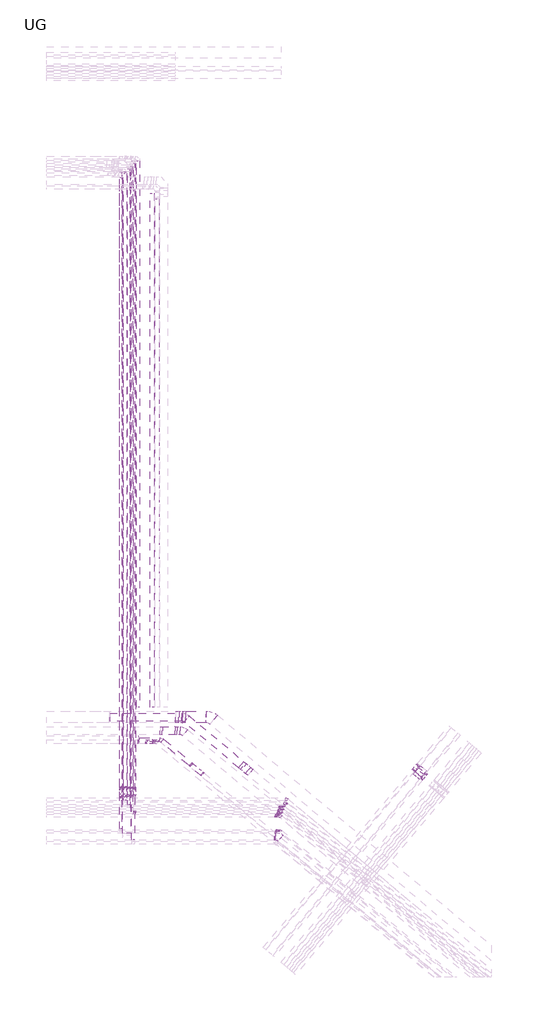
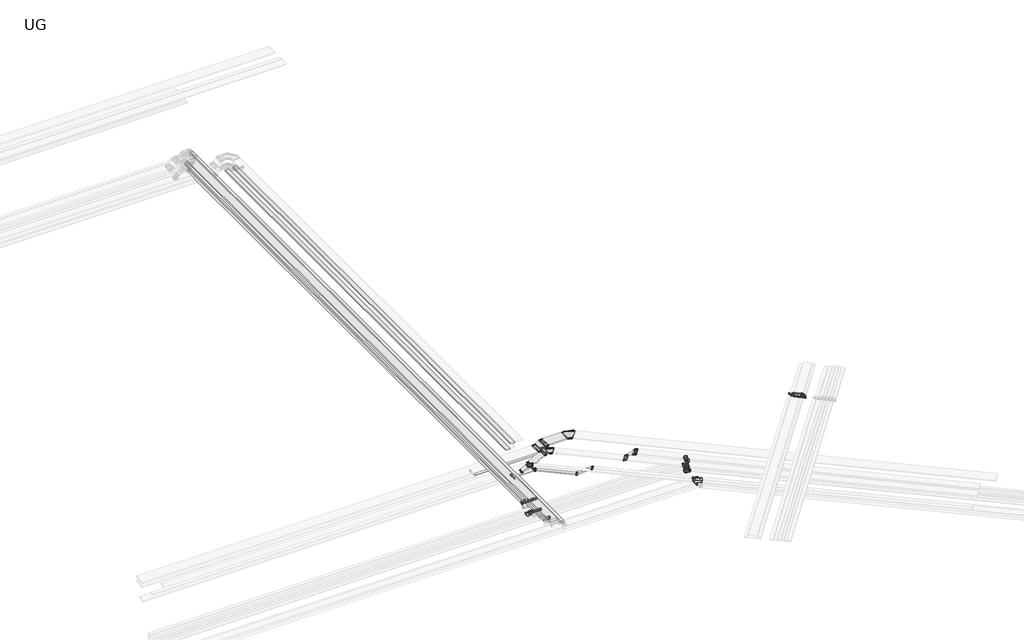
# One storey, part 3 of 14: 54 cable carrier fittings, 47 cable carrier segments.
"""IFC4 building model written with IfcOpenShell, lengths in millimetres."""

from ifc_helpers import new_model, si_unit, frame, origin, place, context, project, spatial, polyline, outline, extrude, transform, mapped, element, save
from components import cable_tray_horizontal_bend_a37de1d9, cable_tray_horizontal_bend_3e94afd1, cable_tray_horizontal_bend_6ea1dc5c, cable_tray_horizontal_bend_203efda3, cable_tray_horizontal_bend_376117d4, cable_tray_horizontal_bend_fe87960c, cable_tray_horizontal_bend_765600c6, cable_tray_horizontal_bend_eb570cdd, cable_tray_horizontal_bend_2ef30f2e, cable_tray_horizontal_bend_5fd04952, cable_tray_reducer_6475a707, cable_tray_reducer_8ec5fc44, cable_tray_reducer_cdb0313a, cable_tray_vertical_inside_bend_327bc21f, cable_tray_vertical_inside_bend_f6baaffd, cable_tray_vertical_inside_bend_f7f475b4, cable_tray_vertical_inside_bend_de01723b, cable_tray_vertical_inside_bend_649f0518, cable_tray_vertical_inside_bend_7e2063ad, cable_tray_vertical_inside_bend_b1ce3206, cable_tray_vertical_inside_bend_7db7fc7c, cable_tray_vertical_inside_bend_b44fa44e, cable_tray_vertical_inside_bend_c3333b5b, cable_tray_vertical_inside_bend_e76ff088, cable_tray_vertical_inside_bend_801f750d, cable_tray_vertical_outside_bend_a3d3d836, cable_tray_vertical_outside_bend_dc64f624, cable_tray_vertical_outside_bend_fceaed45, cable_tray_vertical_outside_bend_b6a104fe, cable_tray_vertical_outside_bend_59e16c32, cable_tray_vertical_outside_bend_ce2e8d87, cable_tray_vertical_outside_bend_bbdee010, cable_tray_vertical_outside_bend_665fa45d, cable_tray_vertical_outside_bend_58dbef8e, cable_tray_vertical_outside_bend_64dea95c, cable_tray_vertical_outside_bend_fd5c28ad

model = new_model("IFC4")

# Units and contexts
model_context = context("Model", 3, world=origin())
ifc_project = project(units=[si_unit("LENGTHUNIT", "METRE", prefix="MILLI")], contexts=[model_context])

# Site, building, storey
site = spatial("IfcSite", under=ifc_project)
building = spatial("IfcBuilding", under=site)
storey = spatial("IfcBuildingStorey", under=building, Name="UG", Elevation=7925.0)

# Cable carrier fittings
placement = place(None, origin())
cable_tray_horizontal_bend_shape = cable_tray_horizontal_bend_a37de1d9(model_context)
element("IfcCableCarrierFitting", 1, ObjectType="Cable Tray Horizontal Bend : ELEC_ELV_TKG_N2402", at=placement, inside=storey, context=model_context, shape_type="MappedRepresentation", body=[
    mapped(cable_tray_horizontal_bend_shape, transform((127964.6174213, 35446.8422805, 12875.0), x_axis=(-0.6427876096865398, -0.7660444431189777, 0.0), y_axis=(0.0, 0.0, 1.0), z_axis=(-0.7660444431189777, 0.6427876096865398, 0.0))),
])
cable_tray_horizontal_bend_2_shape = cable_tray_horizontal_bend_3e94afd1(model_context)
element("IfcCableCarrierFitting", 2, ObjectType="Cable Tray Horizontal Bend : ELEC_ELV_TKG_N2402", at=placement, inside=storey, context=model_context, shape_type="MappedRepresentation", body=[
    mapped(cable_tray_horizontal_bend_2_shape, transform((127741.460372, 35647.6112133, 12900.0), x_axis=(-0.6427876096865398, -0.7660444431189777, 0.0), y_axis=(0.0, 0.0, 1.0), z_axis=(-0.7660444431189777, 0.6427876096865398, 0.0))),
])
cable_tray_horizontal_bend_3_shape = cable_tray_horizontal_bend_6ea1dc5c(model_context)
element("IfcCableCarrierFitting", 3, ObjectType="Cable Tray Horizontal Bend : ELEC_ELV_TKG_N2402", at=placement, inside=storey, context=model_context, shape_type="MappedRepresentation", body=[
    mapped(cable_tray_horizontal_bend_3_shape, transform((120484.1235877, 32544.1008473, 12624.9999525), x_axis=(-0.7660444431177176, 0.6427876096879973, 2.385974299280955e-07), y_axis=(-0.6427876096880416, -0.7660444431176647, -2.8434934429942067e-07), z_axis=(0.0, -3.711917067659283e-07, 0.999999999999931))),
])
element("IfcCableCarrierFitting", 4, ObjectType="Cable Tray Horizontal Bend : ELEC_ELV_TKG_N2402", at=placement, inside=storey, context=model_context, shape_type="MappedRepresentation", body=[
    mapped(cable_tray_horizontal_bend_3_shape, transform((120549.0658056, 33469.1008552, 12625.0), x_axis=(-0.7660444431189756, 0.6427876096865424, 0.0), y_axis=(-0.6427876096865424, -0.7660444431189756, 0.0), z_axis=(0.0, 0.0, 1.0))),
])
element("IfcCableCarrierFitting", 5, ObjectType="Cable Tray Horizontal Bend : ELEC_ELV_TKG_N2402", at=placement, inside=storey, context=model_context, shape_type="MappedRepresentation", body=[
    mapped(cable_tray_horizontal_bend_3_shape, transform((120658.2568758, 33769.1008552, 12625.0000001), x_axis=(-0.7660444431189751, 0.6427876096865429, 0.0), y_axis=(-0.6427876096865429, -0.7660444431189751, 0.0), z_axis=(0.0, 0.0, 1.0))),
])
element("IfcCableCarrierFitting", 6, ObjectType="Cable Tray Horizontal Bend : ELEC_ELV_TKG_N2402", at=placement, inside=storey, context=model_context, shape_type="MappedRepresentation", body=[
    mapped(cable_tray_horizontal_bend_3_shape, transform((120603.6613407, 33619.1008552, 12625.0000001), x_axis=(-0.7660444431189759, 0.642787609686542, 0.0), y_axis=(-0.642787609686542, -0.7660444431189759, 0.0), z_axis=(0.0, 0.0, 1.0))),
])
cable_tray_horizontal_bend_4_shape = cable_tray_horizontal_bend_203efda3(model_context)
element("IfcCableCarrierFitting", 7, ObjectType="Cable Tray Horizontal Bend : ELEC_ELV_TKG_N2402", at=placement, inside=storey, context=model_context, shape_type="MappedRepresentation", body=[
    mapped(cable_tray_horizontal_bend_4_shape, transform((120794.7457137, 34144.1008552, 12699.9999995), x_axis=(-0.7660444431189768, 0.6427876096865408, 0.0), y_axis=(-0.6427876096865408, -0.7660444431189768, 0.0), z_axis=(0.0, 0.0, 1.0))),
])
element("IfcCableCarrierFitting", 8, ObjectType="Cable Tray Horizontal Bend : ELEC_ELV_TKG_N2402", at=placement, inside=storey, context=model_context, shape_type="MappedRepresentation", body=[
    mapped(cable_tray_horizontal_bend_4_shape, transform((120721.9516668, 33944.1008552, 12699.9999995), x_axis=(-0.7660444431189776, 0.64278760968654, 0.0), y_axis=(-0.64278760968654, -0.7660444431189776, 0.0), z_axis=(0.0, 0.0, 1.0))),
])
cable_tray_horizontal_bend_5_shape = cable_tray_horizontal_bend_376117d4(model_context)
element("IfcCableCarrierFitting", 9, ObjectType="Cable Tray Horizontal Bend : ELEC_ELV_TKG_N2402", at=placement, inside=storey, context=model_context, shape_type="MappedRepresentation", body=[
    mapped(cable_tray_horizontal_bend_5_shape, transform((120375.4539383, 32244.1008519, 12649.9999959), x_axis=(-0.7660444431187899, 0.6427876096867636, 0.0), y_axis=(-0.6427876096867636, -0.7660444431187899, 0.0), z_axis=(0.0, 0.0, 1.0))),
])
cable_tray_horizontal_bend_6_shape = cable_tray_horizontal_bend_fe87960c(model_context)
element("IfcCableCarrierFitting", 10, ObjectType="Cable Tray Horizontal Bend : ELEC_ELV_CT_N2402", at=placement, inside=storey, context=model_context, shape_type="MappedRepresentation", body=[
    mapped(cable_tray_horizontal_bend_6_shape, transform((127535.4609182, 35907.7208678, 12850.0), x_axis=(-0.6427876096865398, -0.7660444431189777, 0.0), y_axis=(0.0, 0.0, 1.0), z_axis=(-0.7660444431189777, 0.6427876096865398, 0.0))),
])
cable_tray_horizontal_bend_7_shape = cable_tray_horizontal_bend_765600c6(model_context)
element("IfcCableCarrierFitting", 11, ObjectType="Cable Tray Horizontal Bend : ELEC_SUB_CT_N2402", at=placement, inside=storey, context=model_context, shape_type="MappedRepresentation", body=[
    mapped(cable_tray_horizontal_bend_7_shape, transform((116910.250083, 38350.0000005, 12850.0), x_axis=(-0.7660444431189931, 0.6427876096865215, 0.0), y_axis=(-0.6427876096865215, -0.7660444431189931, 0.0), z_axis=(0.0, 0.0, 1.0))),
])
cable_tray_horizontal_bend_8_shape = cable_tray_horizontal_bend_eb570cdd(model_context)
element("IfcCableCarrierFitting", 12, ObjectType="Cable Tray Horizontal Bend : ELEC_ELV_CT_N2402", at=placement, inside=storey, context=model_context, shape_type="MappedRepresentation", body=[
    mapped(cable_tray_horizontal_bend_8_shape, transform((120485.3710146, 33294.1008552, 12600.0), x_axis=(-0.7660444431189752, 0.6427876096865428, 0.0), y_axis=(-0.6427876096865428, -0.7660444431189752, 0.0), z_axis=(0.0, 0.0, 1.0))),
])
cable_tray_horizontal_bend_9_shape = cable_tray_horizontal_bend_2ef30f2e(model_context)
element("IfcCableCarrierFitting", 13, ObjectType="Cable Tray Horizontal Bend : ELEC_SUB_CT_N2402", at=placement, inside=storey, context=model_context, shape_type="MappedRepresentation", body=[
    mapped(cable_tray_horizontal_bend_9_shape, transform((115587.8848308, 38350.0000005, 12424.9999994), x_axis=(-0.7660444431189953, 0.6427876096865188, 0.0), y_axis=(-0.6427876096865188, -0.7660444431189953, 0.0), z_axis=(0.0, 0.0, 1.0))),
])
element("IfcCableCarrierFitting", 14, ObjectType="Cable Tray Horizontal Bend : ELEC_SUB_CT_N2402", at=placement, inside=storey, context=model_context, shape_type="MappedRepresentation", body=[
    mapped(cable_tray_horizontal_bend_9_shape, transform((115489.1287652, 37649.6217937, 12850.0), x_axis=(-0.7660444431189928, 0.6427876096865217, 0.0), y_axis=(-0.6427876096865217, -0.7660444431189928, 0.0), z_axis=(0.0, 0.0, 1.0))),
])
cable_tray_horizontal_bend_10_shape = cable_tray_horizontal_bend_5fd04952(model_context)
element("IfcCableCarrierFitting", 15, ObjectType="Cable Tray Horizontal Bend : ELEC_SUB_CT_N2402", at=placement, inside=storey, context=model_context, shape_type="MappedRepresentation", body=[
    mapped(cable_tray_horizontal_bend_10_shape, transform((114157.3663291, 37099.6217937, 12849.9999984), x_axis=(-0.7660444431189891, 0.6427876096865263, 0.0), y_axis=(-0.6427876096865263, -0.7660444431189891, 0.0), z_axis=(0.0, 0.0, 1.0))),
])
element("IfcCableCarrierFitting", 16, ObjectType="Cable Tray Horizontal Bend : ELEC_SUB_CT_N2402", at=placement, inside=storey, context=model_context, shape_type="MappedRepresentation", body=[
    mapped(cable_tray_horizontal_bend_10_shape, transform((114388.1571556, 37199.6217937, 12425.0000001), x_axis=(-0.7660444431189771, 0.6427876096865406, 0.0), y_axis=(-0.6427876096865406, -0.7660444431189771, 0.0), z_axis=(0.0, 0.0, 1.0))),
])
cable_tray_reducer_shape = cable_tray_reducer_6475a707(model_context)
element("IfcCableCarrierFitting", 17, ObjectType="Cable Tray Reducer : ELEC_SUB_CT_N2402", at=placement, inside=storey, context=model_context, shape_type="MappedRepresentation", body=[
    mapped(cable_tray_reducer_shape, transform((113251.9985588, 37199.6217937, 12425.0000001), x_axis=(-1.0, 0.0, 0.0), y_axis=(0.0, -1.0, 0.0), z_axis=(0.0, 0.0, 1.0))),
])
cable_tray_reducer_2_shape = cable_tray_reducer_8ec5fc44(model_context)
element("IfcCableCarrierFitting", 18, ObjectType="Cable Tray Reducer : ELEC_ELV_TKG_N2402", at=placement, inside=storey, context=model_context, shape_type="MappedRepresentation", body=[
    mapped(cable_tray_reducer_2_shape, transform((120229.8658446, 32244.1008519, 12649.9999959), x_axis=(-1.0, 0.0, 0.0), y_axis=(0.0, -1.0, 0.0), z_axis=(0.0, 0.0, 1.0))),
])
cable_tray_reducer_3_shape = cable_tray_reducer_cdb0313a(model_context)
element("IfcCableCarrierFitting", 19, ObjectType="Cable Tray Reducer : ELEC_ELV_TKG_N2402", at=placement, inside=storey, context=model_context, shape_type="MappedRepresentation", body=[
    mapped(cable_tray_reducer_3_shape, transform((120763.7742732, 33909.0075216, 12699.9999995), x_axis=(0.7660444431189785, -0.642787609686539, 0.0), y_axis=(0.642787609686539, 0.7660444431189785, 0.0), z_axis=(0.0, 0.0, 1.0))),
])
cable_tray_vertical_inside_bend_shape = cable_tray_vertical_inside_bend_327bc21f(model_context)
element("IfcCableCarrierFitting", 20, ObjectType="Cable Tray Vertical Inside Bend : ELEC_SUB_CT_N2402", at=placement, inside=storey, context=model_context, shape_type="MappedRepresentation", body=[
    mapped(cable_tray_vertical_inside_bend_shape, transform((114397.4420088, 37649.6217937, 12425.0000001), x_axis=(-0.86602540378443, 0.0, -0.5000000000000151), y_axis=(-0.5000000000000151, 0.0, 0.86602540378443), z_axis=(0.0, 1.0, 0.0))),
])
cable_tray_vertical_inside_bend_2_shape = cable_tray_vertical_inside_bend_f6baaffd(model_context)
element("IfcCableCarrierFitting", 21, ObjectType="Cable Tray Vertical Inside Bend : ELEC_SUB_CT_N2402", at=placement, inside=storey, context=model_context, shape_type="MappedRepresentation", body=[
    mapped(cable_tray_vertical_inside_bend_2_shape, transform((118552.9273312, 35862.033932, 12424.9999994), x_axis=(-0.5416752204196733, 0.4545194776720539, -0.7071067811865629), y_axis=(-0.5416752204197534, 0.45451947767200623, 0.7071067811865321), z_axis=(0.64278760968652, 0.7660444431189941, 0.0))),
])
cable_tray_vertical_inside_bend_3_shape = cable_tray_vertical_inside_bend_f7f475b4(model_context)
element("IfcCableCarrierFitting", 22, ObjectType="Cable Tray Vertical Inside Bend : ELEC_SUB_CT_N2402", at=placement, inside=storey, context=model_context, shape_type="MappedRepresentation", body=[
    mapped(cable_tray_vertical_inside_bend_3_shape, transform((115206.1333505, 38350.0000005, 12649.9999997), x_axis=(1.0, 0.0, 0.0), y_axis=(0.0, 0.0, 1.0), z_axis=(0.0, -1.0, 0.0))),
])
cable_tray_vertical_inside_bend_4_shape = cable_tray_vertical_inside_bend_de01723b(model_context)
element("IfcCableCarrierFitting", 23, ObjectType="Cable Tray Vertical Inside Bend : ELEC_SUB_CT_N2402", at=placement, inside=storey, context=model_context, shape_type="MappedRepresentation", body=[
    mapped(cable_tray_vertical_inside_bend_4_shape, transform((113619.2439008, 37099.6217937, 12650.0), x_axis=(-0.8660254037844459, 0.0, -0.4999999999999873), y_axis=(-0.4999999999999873, 0.0, 0.8660254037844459), z_axis=(0.0, 1.0, 0.0))),
])
element("IfcCableCarrierFitting", 24, ObjectType="Cable Tray Vertical Inside Bend : ELEC_SUB_CT_N2402", at=placement, inside=storey, context=model_context, shape_type="MappedRepresentation", body=[
    mapped(cable_tray_vertical_inside_bend_4_shape, transform((115921.4151553, 35913.0655717, 12425.0000001), x_axis=(-0.6634139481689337, 0.5566703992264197, -0.500000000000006), y_axis=(-0.38302222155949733, 0.3213938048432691, 0.8660254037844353), z_axis=(0.6427876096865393, 0.7660444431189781, 0.0))),
])
cable_tray_vertical_inside_bend_5_shape = cable_tray_vertical_inside_bend_649f0518(model_context)
element("IfcCableCarrierFitting", 25, ObjectType="Cable Tray Vertical Inside Bend : ELEC_ELV_TKG_N2402", at=placement, inside=storey, context=model_context, shape_type="MappedRepresentation", body=[
    mapped(cable_tray_vertical_inside_bend_5_shape, transform((113022.323276, 33469.1008552, 12374.9999995), x_axis=(0.0, -1.0, 0.0), y_axis=(0.0, 0.0, 1.0), z_axis=(-1.0, 0.0, 0.0))),
])
cable_tray_vertical_inside_bend_6_shape = cable_tray_vertical_inside_bend_7e2063ad(model_context)
element("IfcCableCarrierFitting", 26, ObjectType="Cable Tray Vertical Inside Bend : ELEC_ELV_TKG_N2402", at=placement, inside=storey, context=model_context, shape_type="MappedRepresentation", body=[
    mapped(cable_tray_vertical_inside_bend_6_shape, transform((112547.323276, 34344.1008552, 12400.0), x_axis=(0.0, -0.7071067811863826, -0.7071067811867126), y_axis=(0.0, -0.7071067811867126, 0.7071067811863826), z_axis=(-1.0, 0.0, 0.0))),
])
cable_tray_vertical_inside_bend_7_shape = cable_tray_vertical_inside_bend_b1ce3206(model_context)
element("IfcCableCarrierFitting", 27, ObjectType="Cable Tray Vertical Inside Bend : ELEC_ELV_TKG_N2402", at=placement, inside=storey, context=model_context, shape_type="MappedRepresentation", body=[
    mapped(cable_tray_vertical_inside_bend_7_shape, transform((113022.323276, 34344.1008547, 12374.9999995), x_axis=(0.0, -0.707106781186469, -0.7071067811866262), y_axis=(0.0, -0.7071067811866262, 0.707106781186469), z_axis=(-1.0, 0.0, 0.0))),
])
element("IfcCableCarrierFitting", 28, ObjectType="Cable Tray Vertical Inside Bend : ELEC_ELV_TKG_N2402", at=placement, inside=storey, context=model_context, shape_type="MappedRepresentation", body=[
    mapped(cable_tray_vertical_inside_bend_7_shape, transform((112872.323276, 34344.1008547, 12374.9999995), x_axis=(0.0, -0.7071067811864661, -0.707106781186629), y_axis=(0.0, -0.707106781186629, 0.7071067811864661), z_axis=(-1.0, 0.0, 0.0))),
])
element("IfcCableCarrierFitting", 29, ObjectType="Cable Tray Vertical Inside Bend : ELEC_ELV_TKG_N2402", at=placement, inside=storey, context=model_context, shape_type="MappedRepresentation", body=[
    mapped(cable_tray_vertical_inside_bend_7_shape, transform((112722.323276, 34344.1008552, 12375.0), x_axis=(0.0, -0.7071067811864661, -0.707106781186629), y_axis=(0.0, -0.707106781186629, 0.7071067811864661), z_axis=(-1.0, 0.0, 0.0))),
])
cable_tray_vertical_inside_bend_8_shape = cable_tray_vertical_inside_bend_7db7fc7c(model_context)
element("IfcCableCarrierFitting", 30, ObjectType="Cable Tray Vertical Inside Bend : ELEC_ELV_TKG_N2402", at=placement, inside=storey, context=model_context, shape_type="MappedRepresentation", body=[
    mapped(cable_tray_vertical_inside_bend_8_shape, transform((112347.323276, 34144.1008552, 12400.0), x_axis=(0.0, -1.0, 0.0), y_axis=(0.0, 0.0, 1.0), z_axis=(-1.0, 0.0, 0.0))),
])
cable_tray_vertical_inside_bend_9_shape = cable_tray_vertical_inside_bend_b44fa44e(model_context)
element("IfcCableCarrierFitting", 31, ObjectType="Cable Tray Vertical Inside Bend : ELEC_ELV_TKG_N2402", at=placement, inside=storey, context=model_context, shape_type="MappedRepresentation", body=[
    mapped(cable_tray_vertical_inside_bend_9_shape, transform((112347.323276, 34344.1008552, 12400.0), x_axis=(0.0, -0.7071067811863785, -0.7071067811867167), y_axis=(0.0, -0.7071067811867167, 0.7071067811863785), z_axis=(-1.0, 0.0, 0.0))),
])
cable_tray_vertical_inside_bend_10_shape = cable_tray_vertical_inside_bend_c3333b5b(model_context)
element("IfcCableCarrierFitting", 32, ObjectType="Cable Tray Vertical Inside Bend : ELEC_ELV_TKG_N2402", at=placement, inside=storey, context=model_context, shape_type="MappedRepresentation", body=[
    mapped(cable_tray_vertical_inside_bend_10_shape, transform((120360.5854539, 32544.1008473, 12624.9999525), x_axis=(-1.0, 0.0, 0.0), y_axis=(0.0, 0.0, 1.0), z_axis=(0.0, 1.0, 0.0))),
])
cable_tray_vertical_inside_bend_11_shape = cable_tray_vertical_inside_bend_e76ff088(model_context)
element("IfcCableCarrierFitting", 33, ObjectType="Cable Tray Vertical Inside Bend : ELEC_ELV_CT_N2402", at=placement, inside=storey, context=model_context, shape_type="MappedRepresentation", body=[
    mapped(cable_tray_vertical_inside_bend_11_shape, transform((120322.923509, 33294.1008552, 12600.0), x_axis=(-1.0, 0.0, 0.0), y_axis=(0.0, 0.0, 1.0), z_axis=(0.0, 1.0, 0.0))),
])
cable_tray_vertical_inside_bend_12_shape = cable_tray_vertical_inside_bend_801f750d(model_context)
element("IfcCableCarrierFitting", 34, ObjectType="Cable Tray Vertical Inside Bend : ELEC_ELV_TKG_N2402", at=placement, inside=storey, context=model_context, shape_type="MappedRepresentation", body=[
    mapped(cable_tray_vertical_inside_bend_12_shape, transform((120425.5276717, 33469.1008552, 12625.0), x_axis=(-1.0, 0.0, 0.0), y_axis=(0.0, 0.0, 1.0), z_axis=(0.0, 1.0, 0.0))),
])
element("IfcCableCarrierFitting", 35, ObjectType="Cable Tray Vertical Inside Bend : ELEC_ELV_TKG_N2402", at=placement, inside=storey, context=model_context, shape_type="MappedRepresentation", body=[
    mapped(cable_tray_vertical_inside_bend_12_shape, transform((120480.1232069, 33619.1008552, 12625.0000001), x_axis=(-1.0, 0.0, 0.0), y_axis=(0.0, 0.0, 1.0), z_axis=(0.0, 1.0, 0.0))),
])
element("IfcCableCarrierFitting", 36, ObjectType="Cable Tray Vertical Inside Bend : ELEC_ELV_TKG_N2402", at=placement, inside=storey, context=model_context, shape_type="MappedRepresentation", body=[
    mapped(cable_tray_vertical_inside_bend_12_shape, transform((120534.718742, 33769.1008552, 12625.0000001), x_axis=(-1.0, 0.0, 0.0), y_axis=(0.0, 0.0, 1.0), z_axis=(0.0, 1.0, 0.0))),
])
cable_tray_vertical_outside_bend_shape = cable_tray_vertical_outside_bend_a3d3d836(model_context)
element("IfcCableCarrierFitting", 37, ObjectType="Cable Tray Vertical Outside Bend : ELEC_ELV_TKG_N2402", at=placement, inside=storey, context=model_context, shape_type="MappedRepresentation", body=[
    mapped(cable_tray_vertical_outside_bend_shape, transform((127528.3055331, 35393.5831683, 13231.6100617), x_axis=(0.6427876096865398, 0.7660444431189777, 0.0), y_axis=(0.0, 0.0, -1.0), z_axis=(-0.7660444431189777, 0.6427876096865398, 0.0))),
])
cable_tray_vertical_outside_bend_2_shape = cable_tray_vertical_outside_bend_dc64f624(model_context)
element("IfcCableCarrierFitting", 38, ObjectType="Cable Tray Vertical Outside Bend : ELEC_SUB_CT_N2402", at=placement, inside=storey, context=model_context, shape_type="MappedRepresentation", body=[
    mapped(cable_tray_vertical_outside_bend_2_shape, transform((115133.5636019, 37649.6217937, 12850.0), x_axis=(-1.0, 0.0, 0.0), y_axis=(0.0, 0.0, -1.0), z_axis=(0.0, -1.0, 0.0))),
])
cable_tray_vertical_outside_bend_3_shape = cable_tray_vertical_outside_bend_fceaed45(model_context)
element("IfcCableCarrierFitting", 39, ObjectType="Cable Tray Vertical Outside Bend : ELEC_ELV_TKG_N2402", at=placement, inside=storey, context=model_context, shape_type="MappedRepresentation", body=[
    mapped(cable_tray_vertical_outside_bend_3_shape, transform((127751.4450063, 35192.793289, 13206.6374053), x_axis=(-0.45451947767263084, -0.5416752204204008, 0.7071067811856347), y_axis=(-0.4545194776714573, -0.5416752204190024, -0.7071067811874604), z_axis=(0.7660444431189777, -0.6427876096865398, 0.0))),
])
element("IfcCableCarrierFitting", 40, ObjectType="Cable Tray Vertical Outside Bend : ELEC_ELV_TKG_N2402", at=placement, inside=storey, context=model_context, shape_type="MappedRepresentation", body=[
    mapped(cable_tray_vertical_outside_bend_3_shape, transform((113022.323276, 34719.1008552, 12750.0), x_axis=(0.0, -1.0, 0.0), y_axis=(0.0, 0.0, -1.0), z_axis=(1.0, 0.0, 0.0))),
])
element("IfcCableCarrierFitting", 41, ObjectType="Cable Tray Vertical Outside Bend : ELEC_ELV_TKG_N2402", at=placement, inside=storey, context=model_context, shape_type="MappedRepresentation", body=[
    mapped(cable_tray_vertical_outside_bend_3_shape, transform((112872.323276, 34719.1008552, 12750.0), x_axis=(0.0, -1.0, 0.0), y_axis=(0.0, 0.0, -1.0), z_axis=(1.0, 0.0, 0.0))),
])
element("IfcCableCarrierFitting", 42, ObjectType="Cable Tray Vertical Outside Bend : ELEC_ELV_TKG_N2402", at=placement, inside=storey, context=model_context, shape_type="MappedRepresentation", body=[
    mapped(cable_tray_vertical_outside_bend_3_shape, transform((112722.323276, 34719.1008552, 12750.0), x_axis=(0.0, -1.0, 0.0), y_axis=(0.0, 0.0, -1.0), z_axis=(1.0, 0.0, 0.0))),
])
cable_tray_vertical_outside_bend_4_shape = cable_tray_vertical_outside_bend_b6a104fe(model_context)
element("IfcCableCarrierFitting", 43, ObjectType="Cable Tray Vertical Outside Bend : ELEC_ELV_TKG_N2402", at=placement, inside=storey, context=model_context, shape_type="MappedRepresentation", body=[
    mapped(cable_tray_vertical_outside_bend_4_shape, transform((112547.323276, 34719.1008552, 12775.0), x_axis=(0.0, -1.0, 0.0), y_axis=(0.0, 0.0, -1.0), z_axis=(1.0, 0.0, 0.0))),
])
element("IfcCableCarrierFitting", 44, ObjectType="Cable Tray Vertical Outside Bend : ELEC_ELV_TKG_N2402", at=placement, inside=storey, context=model_context, shape_type="MappedRepresentation", body=[
    mapped(cable_tray_vertical_outside_bend_4_shape, transform((112347.323276, 34719.1008552, 12775.0), x_axis=(0.0, -1.0, 0.0), y_axis=(0.0, 0.0, -1.0), z_axis=(1.0, 0.0, 0.0))),
])
cable_tray_vertical_outside_bend_5_shape = cable_tray_vertical_outside_bend_59e16c32(model_context)
element("IfcCableCarrierFitting", 45, ObjectType="Cable Tray Vertical Outside Bend : ELEC_SUB_CT_N2402", at=placement, inside=storey, context=model_context, shape_type="MappedRepresentation", body=[
    mapped(cable_tray_vertical_outside_bend_5_shape, transform((118878.49622, 35588.8491975, 12850.0), x_axis=(0.5416752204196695, -0.4545194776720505, 0.707106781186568), y_axis=(0.5416752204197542, -0.4545194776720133, -0.7071067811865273), z_axis=(0.6427876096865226, 0.7660444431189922, 0.0))),
])
cable_tray_vertical_outside_bend_6_shape = cable_tray_vertical_outside_bend_ce2e8d87(model_context)
element("IfcCableCarrierFitting", 46, ObjectType="Cable Tray Vertical Outside Bend : ELEC_ELV_CT_N2402", at=placement, inside=storey, context=model_context, shape_type="MappedRepresentation", body=[
    mapped(cable_tray_vertical_outside_bend_6_shape, transform((127322.2885034, 35653.6718767, 13181.6374049), x_axis=(-0.4545194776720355, -0.5416752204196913, 0.707106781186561), y_axis=(-0.4545194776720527, -0.541675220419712, -0.7071067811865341), z_axis=(0.7660444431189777, -0.6427876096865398, 0.0))),
])
cable_tray_vertical_outside_bend_7_shape = cable_tray_vertical_outside_bend_bbdee010(model_context)
element("IfcCableCarrierFitting", 47, ObjectType="Cable Tray Vertical Outside Bend : ELEC_SUB_CT_N2402", at=placement, inside=storey, context=model_context, shape_type="MappedRepresentation", body=[
    mapped(cable_tray_vertical_outside_bend_7_shape, transform((115552.5435126, 38350.0000005, 12850.0), x_axis=(0.8660254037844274, 0.0, 0.5000000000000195), y_axis=(0.5000000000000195, 0.0, -0.8660254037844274), z_axis=(0.0, 1.0, 0.0))),
])
cable_tray_vertical_outside_bend_8_shape = cable_tray_vertical_outside_bend_665fa45d(model_context)
element("IfcCableCarrierFitting", 48, ObjectType="Cable Tray Vertical Outside Bend : ELEC_SUB_CT_N2402", at=placement, inside=storey, context=model_context, shape_type="MappedRepresentation", body=[
    mapped(cable_tray_vertical_outside_bend_8_shape, transform((113965.6540596, 37099.6217937, 12849.9999984), x_axis=(0.8660254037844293, 0.0, 0.5000000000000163), y_axis=(0.5000000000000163, 0.0, -0.8660254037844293), z_axis=(0.0, 1.0, 0.0))),
])
element("IfcCableCarrierFitting", 49, ObjectType="Cable Tray Vertical Outside Bend : ELEC_SUB_CT_N2402", at=placement, inside=storey, context=model_context, shape_type="MappedRepresentation", body=[
    mapped(cable_tray_vertical_outside_bend_8_shape, transform((116485.3170057, 35439.895737, 12849.9999959), x_axis=(0.6634139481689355, -0.5566703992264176, 0.5000000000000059), y_axis=(0.3830222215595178, -0.3213938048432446, -0.8660254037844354), z_axis=(0.6427876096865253, 0.76604444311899, 0.0))),
])
cable_tray_vertical_outside_bend_9_shape = cable_tray_vertical_outside_bend_58dbef8e(model_context)
element("IfcCableCarrierFitting", 50, ObjectType="Cable Tray Vertical Outside Bend : ELEC_ELV_TKG_N2402", at=placement, inside=storey, context=model_context, shape_type="MappedRepresentation", body=[
    mapped(cable_tray_vertical_outside_bend_9_shape, transform((120273.9829107, 32544.1008473, 12674.9999908), x_axis=(-0.8660252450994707, 0.0, 0.5000002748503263), y_axis=(-0.5000002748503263, 0.0, -0.8660252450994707), z_axis=(0.0, -1.0, 0.0))),
])
cable_tray_vertical_outside_bend_10_shape = cable_tray_vertical_outside_bend_64dea95c(model_context)
element("IfcCableCarrierFitting", 51, ObjectType="Cable Tray Vertical Outside Bend : ELEC_ELV_CT_N2402", at=placement, inside=storey, context=model_context, shape_type="MappedRepresentation", body=[
    mapped(cable_tray_vertical_outside_bend_10_shape, transform((120236.3209659, 33294.1008552, 12649.9999995), x_axis=(-0.8660254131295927, 0.0, 0.4999999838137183), y_axis=(-0.4999999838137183, 0.0, -0.8660254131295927), z_axis=(0.0, -1.0, 0.0))),
])
cable_tray_vertical_outside_bend_11_shape = cable_tray_vertical_outside_bend_fd5c28ad(model_context)
element("IfcCableCarrierFitting", 52, ObjectType="Cable Tray Vertical Outside Bend : ELEC_ELV_TKG_N2402", at=placement, inside=storey, context=model_context, shape_type="MappedRepresentation", body=[
    mapped(cable_tray_vertical_outside_bend_11_shape, transform((120338.9251286, 33469.1008552, 12674.9999995), x_axis=(-0.8660254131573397, 0.0, 0.49999998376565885), y_axis=(-0.49999998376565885, 0.0, -0.8660254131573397), z_axis=(0.0, -1.0, 0.0))),
])
element("IfcCableCarrierFitting", 53, ObjectType="Cable Tray Vertical Outside Bend : ELEC_ELV_TKG_N2402", at=placement, inside=storey, context=model_context, shape_type="MappedRepresentation", body=[
    mapped(cable_tray_vertical_outside_bend_11_shape, transform((120393.5206637, 33619.1008552, 12674.9999995), x_axis=(-0.8660254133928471, 0.0, 0.49999998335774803), y_axis=(-0.49999998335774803, 0.0, -0.8660254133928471), z_axis=(0.0, -1.0, 0.0))),
])
element("IfcCableCarrierFitting", 54, ObjectType="Cable Tray Vertical Outside Bend : ELEC_ELV_TKG_N2402", at=placement, inside=storey, context=model_context, shape_type="MappedRepresentation", body=[
    mapped(cable_tray_vertical_outside_bend_11_shape, transform((120448.1161989, 33769.1008552, 12674.9999995), x_axis=(-0.8660254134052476, 0.0, 0.4999999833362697), y_axis=(-0.4999999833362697, 0.0, -0.8660254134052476), z_axis=(0.0, -1.0, 0.0))),
])

# Cable carrier segments
element("IfcCableCarrierSegment", 55, ObjectType="ELEC_SUB_CT_N2402", at=placement, inside=storey, context=model_context, shape_type="SweptSolid", body=[
    extrude(outline(polyline([(114072.323279, 64868.0008654), (114272.323279, 64868.0008654), (114272.323279, 38850.0000005), (114072.323279, 38850.0000005), (114072.323279, 64868.0008654)])), frame((0.0, 0.0, 12974.9999997), z_axis=(0.0, 0.0, 1.0), x_axis=(1.0, 0.0, 0.0)), (0.0, 0.0, 1.0), 50.0),
])
element("IfcCableCarrierSegment", 56, ObjectType="ELEC_ELV_TKG_N2402", at=placement, inside=storey, context=model_context, shape_type="SweptSolid", body=[
    extrude(outline(polyline([(0.0, -400.0), (0.0, 0.0), (241.1499874, 0.0), (241.1499874, -400.0), (0.0, -400.0)])), frame((127392.78142, 35543.2165849, 13098.031418), z_axis=(0.45451947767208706, 0.5416752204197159, 0.707106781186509), x_axis=(0.4545194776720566, 0.5416752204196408, -0.7071067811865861)), (0.0, 0.0, 1.0), 150.0),
])
element("IfcCableCarrierSegment", 57, ObjectType="ELEC_ELV_CT_N2402", at=placement, inside=storey, context=model_context, shape_type="SweptSolid", body=[
    extrude(outline(polyline([(0.0, -150.0000001), (0.0, 0.0), (386.1634033, 0.0), (386.1634033, -150.0000001), (0.0, -150.0000001)])), frame((127562.7244513, 35823.5329943, 12861.6116524), z_axis=(0.45451947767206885, 0.5416752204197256, 0.7071067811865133), x_axis=(-0.4545194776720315, -0.5416752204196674, 0.7071067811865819)), (0.0, 0.0, 1.0), 50.0),
])
element("IfcCableCarrierSegment", 58, ObjectType="ELEC_ELV_TKG_N2402", at=placement, inside=storey, context=model_context, shape_type="SweptSolid", body=[
    extrude(outline(polyline([(0.0, -100.0), (0.0, 0.0), (386.1634039, 0.0), (386.1634039, -99.9999999), (0.0, -100.0)])), frame((127961.3668564, 35365.1822167, 12868.9339828), z_axis=(0.4545194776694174, 0.5416752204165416, 0.7071067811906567), x_axis=(-0.45451947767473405, -0.5416752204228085, 0.7071067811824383)), (0.0, 0.0, 1.0), 100.0),
])
element("IfcCableCarrierSegment", 59, ObjectType="ELEC_SUB_CT_N2402", at=placement, inside=storey, context=model_context, shape_type="SweptSolid", body=[
    extrude(outline(polyline([(113822.323279, 65140.1193568), (114022.323279, 65140.1193568), (114022.323279, 38850.0000005), (113822.323279, 38850.0000005), (113822.323279, 65140.1193568)])), frame((0.0, 0.0, 12700.0), z_axis=(0.0, 0.0, 1.0), x_axis=(1.0, 0.0, 0.0)), (0.0, 0.0, 1.0), 50.0),
])
element("IfcCableCarrierSegment", 60, ObjectType="ELEC_ELV_TKG_N2402", at=placement, inside=storey, context=model_context, shape_type="SweptSolid", body=[
    extrude(outline(polyline([(112872.3232791, 66815.1193598), (113022.3232791, 66815.1193598), (113022.3232791, 32069.1008519), (112872.3232791, 32069.1008519), (112872.3232791, 66815.1193598)])), frame((0.0, 0.0, 12975.0), z_axis=(0.0, 0.0, 1.0), x_axis=(1.0, 0.0, 0.0)), (0.0, 0.0, 1.0), 150.0),
])
element("IfcCableCarrierSegment", 61, ObjectType="ELEC_ELV_TKG_N2402", at=placement, inside=storey, context=model_context, shape_type="SweptSolid", body=[
    extrude(outline(polyline([(112422.3232791, 66240.1193644), (112822.3232791, 66240.1193644), (112822.3232791, 32419.1008519), (112422.3232791, 32419.1008519), (112422.3232791, 66240.1193644)])), frame((0.0, 0.0, 12975.0), z_axis=(0.0, 0.0, 1.0), x_axis=(1.0, 0.0, 0.0)), (0.0, 0.0, 1.0), 150.0),
])
element("IfcCableCarrierSegment", 62, ObjectType="ELEC_ELV_TKG_N2402", at=placement, inside=storey, context=model_context, shape_type="SweptSolid", body=[
    extrude(outline(polyline([(112272.3232791, 66240.1193644), (112372.3232791, 66240.1193644), (112372.3232791, 32644.1008473), (112272.3232791, 32644.1008473), (112272.3232791, 66240.1193644)])), frame((0.0, 0.0, 12975.0), z_axis=(0.0, 0.0, 1.0), x_axis=(1.0, 0.0, 0.0)), (0.0, 0.0, 1.0), 100.0),
])
element("IfcCableCarrierSegment", 63, ObjectType="ELEC_ELV_TKG_N2402", at=placement, inside=storey, context=model_context, shape_type="SweptSolid", body=[
    extrude(outline(polyline([(112272.323276, 65965.1193598), (112422.323276, 65965.1193598), (112422.323276, 34781.2328895), (112272.323276, 34781.2328895), (112272.323276, 65965.1193598)])), frame((0.0, 0.0, 12700.0), z_axis=(0.0, 0.0, 1.0), x_axis=(1.0, 0.0, 0.0)), (0.0, 0.0, 1.0), 150.0),
])
element("IfcCableCarrierSegment", 64, ObjectType="ELEC_ELV_TKG_N2402", at=placement, inside=storey, context=model_context, shape_type="SweptSolid", body=[
    extrude(outline(polyline([(112672.323276, 66390.1193598), (112772.323276, 66390.1193598), (112772.323276, 34760.5222114), (112672.323276, 34760.5222114), (112672.323276, 66390.1193598)])), frame((0.0, 0.0, 12700.0), z_axis=(0.0, 0.0, 1.0), x_axis=(1.0, 0.0, 0.0)), (0.0, 0.0, 1.0), 100.0),
])
element("IfcCableCarrierSegment", 65, ObjectType="ELEC_ELV_TKG_N2402", at=placement, inside=storey, context=model_context, shape_type="SweptSolid", body=[
    extrude(outline(polyline([(112822.323276, 66540.1193598), (112922.323276, 66540.1193598), (112922.323276, 34760.5222114), (112822.323276, 34760.5222114), (112822.323276, 66540.1193598)])), frame((0.0, 0.0, 12700.0), z_axis=(0.0, 0.0, 1.0), x_axis=(1.0, 0.0, 0.0)), (0.0, 0.0, 1.0), 100.0),
])
element("IfcCableCarrierSegment", 66, ObjectType="ELEC_ELV_TKG_N2402", at=placement, inside=storey, context=model_context, shape_type="SweptSolid", body=[
    extrude(outline(polyline([(112472.323276, 66165.1193598), (112622.323276, 66165.1193598), (112622.323276, 34781.2328895), (112472.323276, 34781.2328895), (112472.323276, 66165.1193598)])), frame((0.0, 0.0, 12700.0), z_axis=(0.0, 0.0, 1.0), x_axis=(1.0, 0.0, 0.0)), (0.0, 0.0, 1.0), 150.0),
])
element("IfcCableCarrierSegment", 67, ObjectType="ELEC_ELV_TKG_N2402", at=placement, inside=storey, context=model_context, shape_type="SweptSolid", body=[
    extrude(outline(polyline([(112972.323276, 66690.1193598), (113072.323276, 66690.1193598), (113072.323276, 34760.5222114), (112972.323276, 34760.5222114), (112972.323276, 66690.1193598)])), frame((0.0, 0.0, 12700.0), z_axis=(0.0, 0.0, 1.0), x_axis=(1.0, 0.0, 0.0)), (0.0, 0.0, 1.0), 100.0),
])
element("IfcCableCarrierSegment", 68, ObjectType="ELEC_ELV_CT_N2402", at=placement, inside=storey, context=model_context, shape_type="SweptSolid", body=[
    extrude(outline(polyline([(113272.323276, 38850.0000005), (113122.323276, 38850.0000005), (113122.323276, 66815.1193598), (113272.323276, 66815.1193598), (113272.323276, 38850.0000005)])), frame((0.0, 0.0, 12699.9999999), z_axis=(0.0, 0.0, 1.0), x_axis=(1.0, 0.0, 0.0)), (0.0, 0.0, 1.0), 50.0),
])
element("IfcCableCarrierSegment", 69, ObjectType="ELEC_SUB_CT_N2402", at=placement, inside=storey, context=model_context, shape_type="SweptSolid", body=[
    extrude(outline(polyline([(115442.2967371, 38550.0000005), (115442.2967371, 38150.0000005), (111768.5345029, 38150.0000005), (111768.5345029, 38550.0000005), (115442.2967371, 38550.0000005)])), frame((0.0, 0.0, 12399.9999994), z_axis=(0.0, 0.0, 1.0), x_axis=(1.0, 0.0, 0.0)), (0.0, 0.0, 1.0), 50.0),
])
element("IfcCableCarrierSegment", 70, ObjectType="ELEC_SUB_CT_N2402", at=placement, inside=storey, context=model_context, shape_type="SweptSolid", body=[
    extrude(outline(polyline([(118610.0910037, 36075.1493734), (118352.9759598, 35768.7315962), (115570.8542591, 38103.2088891), (115827.9693029, 38409.6266664), (118610.0910037, 36075.1493734)])), frame((0.0, 0.0, 12399.9999994), z_axis=(0.0, 0.0, 1.0), x_axis=(1.0, 0.0, 0.0)), (0.0, 0.0, 1.0), 50.0),
])
element("IfcCableCarrierSegment", 71, ObjectType="ELEC_SUB_CT_N2402", at=placement, inside=storey, context=model_context, shape_type="SweptSolid", body=[
    extrude(outline(polyline([(0.0, -399.9999999), (0.0, 0.0), (414.6446618, 0.0), (414.6446618, -400.0), (0.0, -399.9999999)])), frame((118712.9975035, 35466.6376517, 12766.4213563), z_axis=(-0.5416752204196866, 0.4545194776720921, 0.7071067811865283), x_axis=(-0.5416752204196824, 0.45451947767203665, -0.7071067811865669)), (0.0, 0.0, 1.0), 50.0),
])
element("IfcCableCarrierSegment", 72, ObjectType="ELEC_SUB_CT_N2402", at=placement, inside=storey, context=model_context, shape_type="SweptSolid", body=[
    extrude(outline(polyline([(0.0, -600.0), (0.0, 0.0), (225.8330256, 0.0), (225.8330256, -600.0), (0.0, -600.0)])), frame((115294.0498629, 38650.0000005, 12671.8911084), z_axis=(-0.5000000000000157, 0.0, 0.8660254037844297), x_axis=(0.8660254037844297, 0.0, 0.5000000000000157)), (0.0, 0.0, 1.0), 50.0),
])
element("IfcCableCarrierSegment", 73, ObjectType="ELEC_SUB_CT_N2402", at=placement, inside=storey, context=model_context, shape_type="SweptSolid", body=[
    extrude(outline(polyline([(116691.8679425, 38650.0000005), (116691.8679425, 38050.0000005), (115639.6270001, 38050.0000005), (115639.6270001, 38650.0000005), (116691.8679425, 38650.0000005)])), frame((0.0, 0.0, 12825.0), z_axis=(0.0, 0.0, 1.0), x_axis=(1.0, 0.0, 0.0)), (0.0, 0.0, 1.0), 50.0),
])
element("IfcCableCarrierSegment", 74, ObjectType="ELEC_SUB_CT_N2402", at=placement, inside=storey, context=model_context, shape_type="SweptSolid", body=[
    extrude(outline(polyline([(114315.3631088, 37299.6217937), (114315.3631088, 37099.6217937), (113251.9985588, 37099.6217937), (113251.9985588, 37299.6217937), (114315.3631088, 37299.6217937)])), frame((0.0, 0.0, 12400.0000001), z_axis=(0.0, 0.0, 1.0), x_axis=(1.0, 0.0, 0.0)), (0.0, 0.0, 1.0), 50.0),
])
element("IfcCableCarrierSegment", 75, ObjectType="ELEC_SUB_CT_N2402", at=placement, inside=storey, context=model_context, shape_type="SweptSolid", body=[
    extrude(outline(polyline([(113999.1477086, 36999.6217937), (113999.1477086, 37199.6217937), (114084.5722823, 37199.6217937), (114084.5722823, 36999.6217937), (113999.1477086, 36999.6217937)])), frame((0.0, 0.0, 12824.9999984), z_axis=(0.0, 0.0, 1.0), x_axis=(1.0, 0.0, 0.0)), (0.0, 0.0, 1.0), 50.0),
])
element("IfcCableCarrierSegment", 76, ObjectType="ELEC_SUB_CT_N2402", at=placement, inside=storey, context=model_context, shape_type="SweptSolid", body=[
    extrude(outline(polyline([(0.0, -200.0), (0.0, 0.0), (333.0126988, 0.0), (333.0126988, -200.0), (0.0, -200.0)])), frame((113949.1477086, 36999.6217937, 12811.6025388), z_axis=(-0.5000000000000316, 0.0, 0.8660254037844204), x_axis=(-0.8660254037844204, 0.0, -0.5000000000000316)), (0.0, 0.0, 1.0), 50.0),
])
element("IfcCableCarrierSegment", 77, ObjectType="ELEC_SUB_CT_N2402", at=placement, inside=storey, context=model_context, shape_type="SweptSolid", body=[
    extrude(outline(polyline([(115343.5406715, 37849.6217937), (115343.5406715, 37449.6217937), (115193.8521701, 37449.6217937), (115193.8521701, 37849.6217937), (115343.5406715, 37849.6217937)])), frame((0.0, 0.0, 12825.0), z_axis=(0.0, 0.0, 1.0), x_axis=(1.0, 0.0, 0.0)), (0.0, 0.0, 1.0), 50.0),
])
element("IfcCableCarrierSegment", 78, ObjectType="ELEC_SUB_CT_N2402", at=placement, inside=storey, context=model_context, shape_type="SweptSolid", body=[
    extrude(outline(polyline([(0.0, -400.0), (0.0, 0.0), (729.4228632, 0.0), (729.4228632, -400.0), (0.0, -400.0)])), frame((115093.8521701, 37449.6217937, 12798.2050808), z_axis=(-0.5000000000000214, 0.0, 0.8660254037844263), x_axis=(-0.8660254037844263, 0.0, -0.5000000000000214)), (0.0, 0.0, 1.0), 50.0),
])
element("IfcCableCarrierSegment", 79, ObjectType="ELEC_SUB_CT_N2402", at=placement, inside=storey, context=model_context, shape_type="SweptSolid", body=[
    extrude(outline(polyline([(-1e-07, -200.0), (0.0, 0.0), (783.0126934, 0.0), (783.0126935, -200.0000001), (-1e-07, -200.0)])), frame((116408.3936463, 35373.9013705, 12811.6025363), z_axis=(-0.38302222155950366, 0.3213938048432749, 0.8660254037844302), x_axis=(-0.6634139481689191, 0.5566703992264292, -0.5000000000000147)), (0.0, 0.0, 1.0), 50.0),
])
element("IfcCableCarrierSegment", 80, ObjectType="ELEC_SUB_CT_N2402", at=placement, inside=storey, context=model_context, shape_type="SweptSolid", body=[
    extrude(outline(polyline([(115960.0362926, 36011.1993186), (115831.4787706, 35857.99043), (114379.6418698, 37076.226238), (114508.1993917, 37229.4351266), (115960.0362926, 36011.1993186)])), frame((0.0, 0.0, 12400.0000001), z_axis=(0.0, 0.0, 1.0), x_axis=(1.0, 0.0, 0.0)), (0.0, 0.0, 1.0), 50.0),
])
element("IfcCableCarrierSegment", 81, ObjectType="ELEC_ELV_TKG_N2402", at=placement, inside=storey, context=model_context, shape_type="SweptSolid", body=[
    extrude(outline(polyline([(-50.0, -20.7106781), (50.0, -20.7106781), (50.0, -120.7106781), (-50.0, -120.7106781), (-50.0, -20.7106781)])), frame((113022.323276, 34423.3901766, 12354.2893214), z_axis=(0.0, 0.7071067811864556, 0.7071067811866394), x_axis=(1.0, 0.0, 0.0)), (0.0, 0.0, 1.0), 447.4873741),
])
element("IfcCableCarrierSegment", 82, ObjectType="ELEC_ELV_TKG_N2402", at=placement, inside=storey, context=model_context, shape_type="SweptSolid", body=[
    extrude(outline(polyline([(112972.323276, 33419.1008552), (112972.323276, 33519.1008552), (113072.323276, 33519.1008552), (113072.323276, 33419.1008552), (112972.323276, 33419.1008552)])), frame((0.0, 0.0, 12474.9999995), z_axis=(0.0, 0.0, 1.0), x_axis=(1.0, 0.0, 0.0)), (0.0, 0.0, 1.0), 100.0),
])
element("IfcCableCarrierSegment", 83, ObjectType="ELEC_ELV_TKG_N2402", at=placement, inside=storey, context=model_context, shape_type="SweptSolid", body=[
    extrude(outline(polyline([(-50.0, -20.7106781), (50.0, -20.7106781), (50.0, -120.7106781), (-50.0, -120.7106781), (-50.0, -20.7106781)])), frame((112872.323276, 34423.3901766, 12354.2893214), z_axis=(0.0, 0.7071067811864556, 0.7071067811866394), x_axis=(1.0, 0.0, 0.0)), (0.0, 0.0, 1.0), 447.4873741),
])
element("IfcCableCarrierSegment", 84, ObjectType="ELEC_ELV_TKG_N2402", at=placement, inside=storey, context=model_context, shape_type="SweptSolid", body=[
    extrude(outline(polyline([(112822.323276, 34302.6794984), (112922.323276, 34302.6794984), (112922.323276, 33719.1008552), (112822.323276, 33719.1008552), (112822.323276, 34302.6794984)])), frame((0.0, 0.0, 12324.9999995), z_axis=(0.0, 0.0, 1.0), x_axis=(1.0, 0.0, 0.0)), (0.0, 0.0, 1.0), 100.0),
])
element("IfcCableCarrierSegment", 85, ObjectType="ELEC_ELV_TKG_N2402", at=placement, inside=storey, context=model_context, shape_type="SweptSolid", body=[
    extrude(outline(polyline([(-50.0, -20.7106781), (50.0, -20.7106781), (50.0, -120.7106781), (-50.0, -120.7106781), (-50.0, -20.7106781)])), frame((112722.323276, 34423.3901771, 12354.2893219), z_axis=(0.0, 0.7071067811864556, 0.7071067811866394), x_axis=(1.0, 0.0, 0.0)), (0.0, 0.0, 1.0), 447.4873734),
])
element("IfcCableCarrierSegment", 86, ObjectType="ELEC_ELV_TKG_N2402", at=placement, inside=storey, context=model_context, shape_type="SweptSolid", body=[
    extrude(outline(polyline([(112672.323276, 34302.679499), (112772.323276, 34302.679499), (112772.323276, 33869.1008552), (112672.323276, 33869.1008552), (112672.323276, 34302.679499)])), frame((0.0, 0.0, 12325.0), z_axis=(0.0, 0.0, 1.0), x_axis=(1.0, 0.0, 0.0)), (0.0, 0.0, 1.0), 100.0),
])
element("IfcCableCarrierSegment", 87, ObjectType="ELEC_ELV_TKG_N2402", at=placement, inside=storey, context=model_context, shape_type="SweptSolid", body=[
    extrude(outline(polyline([(-75.0, -31.0660172), (75.0, -31.0660172), (75.0, -181.0660172), (-75.0, -181.0660172), (-75.0, -31.0660172)])), frame((112547.323276, 34463.034838, 12368.9339828), z_axis=(0.0, 0.7071067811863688, 0.7071067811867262), x_axis=(1.0, 0.0, 0.0)), (0.0, 0.0, 1.0), 406.0660171),
])
element("IfcCableCarrierSegment", 88, ObjectType="ELEC_ELV_TKG_N2402", at=placement, inside=storey, context=model_context, shape_type="SweptSolid", body=[
    extrude(outline(polyline([(112472.323276, 34281.9688208), (112622.323276, 34281.9688208), (112622.323276, 34094.1008552), (112472.323276, 34094.1008552), (112472.323276, 34281.9688208)])), frame((0.0, 0.0, 12325.0), z_axis=(0.0, 0.0, 1.0), x_axis=(1.0, 0.0, 0.0)), (0.0, 0.0, 1.0), 150.0),
])
element("IfcCableCarrierSegment", 89, ObjectType="ELEC_ELV_TKG_N2402", at=placement, inside=storey, context=model_context, shape_type="SweptSolid", body=[
    extrude(outline(polyline([(-75.0, -31.0660172), (75.0, -31.0660172), (75.0, -181.0660172), (-75.0, -181.0660172), (-75.0, -31.0660172)])), frame((112347.323276, 34448.3901771, 12354.2893219), z_axis=(0.0, 0.7071067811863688, 0.7071067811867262), x_axis=(1.0, 0.0, 0.0)), (0.0, 0.0, 1.0), 426.7766953),
])
element("IfcCableCarrierSegment", 90, ObjectType="ELEC_ELV_TKG_N2402", at=placement, inside=storey, context=model_context, shape_type="SweptSolid", body=[
    extrude(outline(polyline([(112272.323276, 34302.679499), (112422.323276, 34302.679499), (112422.323276, 34244.1008552), (112272.323276, 34244.1008552), (112272.323276, 34302.679499)])), frame((0.0, 0.0, 12325.0), z_axis=(0.0, 0.0, 1.0), x_axis=(1.0, 0.0, 0.0)), (0.0, 0.0, 1.0), 150.0),
])
element("IfcCableCarrierSegment", 91, ObjectType="ELEC_ELV_TKG_N2402", at=placement, inside=storey, context=model_context, shape_type="SweptSolid", body=[
    extrude(outline(polyline([(112272.323276, 34069.1008552), (112272.323276, 34219.1008552), (112422.323276, 34219.1008552), (112422.323276, 34069.1008552), (112272.323276, 34069.1008552)])), frame((0.0, 0.0, 12500.0), z_axis=(0.0, 0.0, 1.0), x_axis=(1.0, 0.0, 0.0)), (0.0, 0.0, 1.0), 99.9999995),
])
element("IfcCableCarrierSegment", 92, ObjectType="ELEC_ELV_TKG_N2402", at=placement, inside=storey, context=model_context, shape_type="SweptSolid", body=[
    extrude(outline(polyline([(120447.7265643, 32594.1008473), (120447.7265643, 32494.1008473), (120387.3803901, 32494.1008473), (120387.3803901, 32594.1008473), (120447.7265643, 32594.1008473)])), frame((0.0, 0.0, 12574.9999525), z_axis=(0.0, 0.0, 1.0), x_axis=(1.0, 0.0, 0.0)), (0.0, 0.0, 1.0), 100.0),
])
element("IfcCableCarrierSegment", 93, ObjectType="ELEC_ELV_TKG_N2402", at=placement, inside=storey, context=model_context, shape_type="SweptSolid", body=[
    extrude(outline(polyline([(0.0, -100.0), (0.0, 0.0), (46.410149, 0.0), (46.410149, -100.0), (0.0, -100.0)])), frame((120312.3803489, 32494.1008473, 12595.0961658), z_axis=(0.5000002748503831, 0.0, 0.8660252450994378), x_axis=(-0.8660252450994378, 0.0, 0.5000002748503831)), (0.0, 0.0, 1.0), 100.0),
])
element("IfcCableCarrierSegment", 94, ObjectType="ELEC_ELV_CT_N2402", at=placement, inside=storey, context=model_context, shape_type="SweptSolid", body=[
    extrude(outline(polyline([(120430.7754794, 33369.1008552), (120430.7754794, 33219.1008552), (120349.7184272, 33219.1008552), (120349.7184272, 33369.1008552), (120430.7754794, 33369.1008552)])), frame((0.0, 0.0, 12575.0), z_axis=(0.0, 0.0, 1.0), x_axis=(1.0, 0.0, 0.0)), (0.0, 0.0, 1.0), 50.0),
])
element("IfcCableCarrierSegment", 95, ObjectType="ELEC_ELV_CT_N2402", at=placement, inside=storey, context=model_context, shape_type="SweptSolid", body=[
    extrude(outline(polyline([(0.0, -150.0), (0.0, 0.0), (46.4101657, 0.0), (46.4101657, -150.0), (0.0, -150.0)])), frame((120287.2184293, 33219.1008552, 12591.7468234), z_axis=(0.4999999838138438, 0.0, 0.8660254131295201), x_axis=(-0.8660254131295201, 0.0, 0.4999999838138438)), (0.0, 0.0, 1.0), 50.0),
])
element("IfcCableCarrierSegment", 96, ObjectType="ELEC_ELV_TKG_N2402", at=placement, inside=storey, context=model_context, shape_type="SweptSolid", body=[
    extrude(outline(polyline([(120512.6687821, 33519.1008552), (120512.6687821, 33419.1008552), (120452.32259, 33419.1008552), (120452.32259, 33519.1008552), (120512.6687821, 33519.1008552)])), frame((0.0, 0.0, 12575.0), z_axis=(0.0, 0.0, 1.0), x_axis=(1.0, 0.0, 0.0)), (0.0, 0.0, 1.0), 100.0),
])
element("IfcCableCarrierSegment", 97, ObjectType="ELEC_ELV_TKG_N2402", at=placement, inside=storey, context=model_context, shape_type="SweptSolid", body=[
    extrude(outline(polyline([(0.0, -100.0), (0.0, 0.0), (46.4101656, 0.0), (46.4101656, -100.0), (0.0, -100.0)])), frame((120377.3225924, 33419.1008552, 12595.0961881), z_axis=(0.49999998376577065, 0.0, 0.8660254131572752), x_axis=(-0.8660254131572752, 0.0, 0.49999998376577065)), (0.0, 0.0, 1.0), 100.0),
])
element("IfcCableCarrierSegment", 98, ObjectType="ELEC_ELV_TKG_N2402", at=placement, inside=storey, context=model_context, shape_type="SweptSolid", body=[
    extrude(outline(polyline([(120567.2643173, 33669.1008552), (120567.2643173, 33569.1008552), (120506.9181251, 33569.1008552), (120506.9181251, 33669.1008552), (120567.2643173, 33669.1008552)])), frame((0.0, 0.0, 12575.0000001), z_axis=(0.0, 0.0, 1.0), x_axis=(1.0, 0.0, 0.0)), (0.0, 0.0, 1.0), 100.0),
])
element("IfcCableCarrierSegment", 99, ObjectType="ELEC_ELV_TKG_N2402", at=placement, inside=storey, context=model_context, shape_type="SweptSolid", body=[
    extrude(outline(polyline([(0.0, -100.0), (0.0, 0.0), (46.4101656, 0.0), (46.4101656, -100.0), (0.0, -100.0)])), frame((120431.9181276, 33569.1008552, 12595.0961881), z_axis=(0.499999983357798, 0.0, 0.8660254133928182), x_axis=(-0.8660254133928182, 0.0, 0.499999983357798)), (0.0, 0.0, 1.0), 100.0),
])
element("IfcCableCarrierSegment", 100, ObjectType="ELEC_ELV_TKG_N2402", at=placement, inside=storey, context=model_context, shape_type="SweptSolid", body=[
    extrude(outline(polyline([(120621.8598524, 33819.1008552), (120621.8598524, 33719.1008552), (120561.5136602, 33719.1008552), (120561.5136602, 33819.1008552), (120621.8598524, 33819.1008552)])), frame((0.0, 0.0, 12575.0000001), z_axis=(0.0, 0.0, 1.0), x_axis=(1.0, 0.0, 0.0)), (0.0, 0.0, 1.0), 100.0),
])
element("IfcCableCarrierSegment", 101, ObjectType="ELEC_ELV_TKG_N2402", at=placement, inside=storey, context=model_context, shape_type="SweptSolid", body=[
    extrude(outline(polyline([(0.0, -100.0), (0.0, 0.0), (46.4101656, 0.0), (46.4101656, -100.0), (0.0, -100.0)])), frame((120486.5136627, 33719.1008552, 12595.0961881), z_axis=(0.49999998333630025, 0.0, 0.86602541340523), x_axis=(-0.86602541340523, 0.0, 0.49999998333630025)), (0.0, 0.0, 1.0), 100.0),
])

save(model, "model.ifc")
